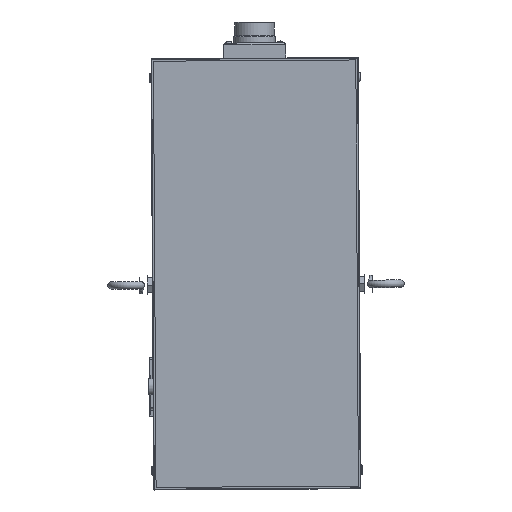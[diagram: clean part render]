
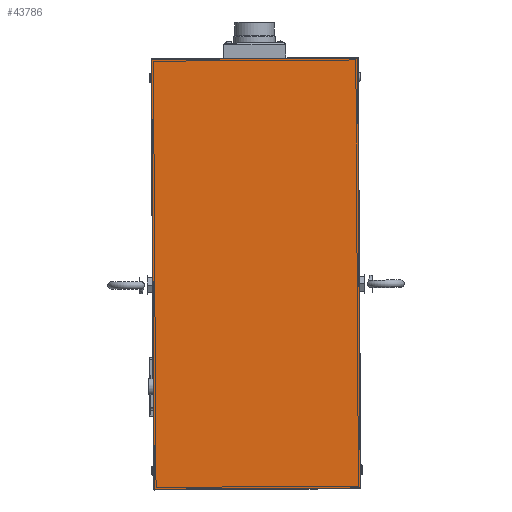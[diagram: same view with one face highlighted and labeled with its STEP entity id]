
A CAD part, top view. The second image highlights one B-rep face of the part: STEP entity #43786.
In plain terms, the highlighted planar face has unit normal (0, 0, 1).
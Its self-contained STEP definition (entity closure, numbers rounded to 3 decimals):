
#1865=PLANE('',#47246);
#5991=FACE_OUTER_BOUND('',#8550,.T.);
#8550=EDGE_LOOP('',(#34612,#34613,#34614,#34615));
#13707=LINE('',#69544,#16910);
#13708=LINE('',#69546,#16911);
#13709=LINE('',#69548,#16912);
#13710=LINE('',#69549,#16913);
#16910=VECTOR('',#55091,10.);
#16911=VECTOR('',#55092,10.);
#16912=VECTOR('',#55093,10.);
#16913=VECTOR('',#55094,10.);
#20844=VERTEX_POINT('',#69542);
#20845=VERTEX_POINT('',#69543);
#20846=VERTEX_POINT('',#69545);
#20847=VERTEX_POINT('',#69547);
#25866=EDGE_CURVE('',#20844,#20845,#13707,.T.);
#25867=EDGE_CURVE('',#20846,#20844,#13708,.T.);
#25868=EDGE_CURVE('',#20847,#20846,#13709,.T.);
#25869=EDGE_CURVE('',#20845,#20847,#13710,.T.);
#34612=ORIENTED_EDGE('',*,*,#25866,.F.);
#34613=ORIENTED_EDGE('',*,*,#25867,.F.);
#34614=ORIENTED_EDGE('',*,*,#25868,.F.);
#34615=ORIENTED_EDGE('',*,*,#25869,.F.);
#43786=ADVANCED_FACE('',(#5991),#1865,.T.);
#47246=AXIS2_PLACEMENT_3D('',#69541,#55089,#55090);
#55089=DIRECTION('center_axis',(0.,0.,
1.));
#55090=DIRECTION('ref_axis',(-0.006,1.,0.));
#55091=DIRECTION('',(0.006,-1.,0.));
#55092=DIRECTION('',(1.,0.006,0.));
#55093=DIRECTION('',(-0.006,1.,0.));
#55094=DIRECTION('',(-1.,-0.006,0.));
#69541=CARTESIAN_POINT('Origin',(-86.673,272.473,686.));
#69542=CARTESIAN_POINT('',(84.815,275.025,686.));
#69543=CARTESIAN_POINT('',(87.029,-85.968,686.));
#69544=CARTESIAN_POINT('',(84.824,273.525,686.));
#69545=CARTESIAN_POINT('',(-88.182,273.964,686.));
#69546=CARTESIAN_POINT('',(-44.183,274.234,686.));
#69547=CARTESIAN_POINT('',(-85.968,-87.029,686.));
#69548=CARTESIAN_POINT('',(-88.173,272.464,686.));
#69549=CARTESIAN_POINT('',(-41.969,-86.759,686.));
